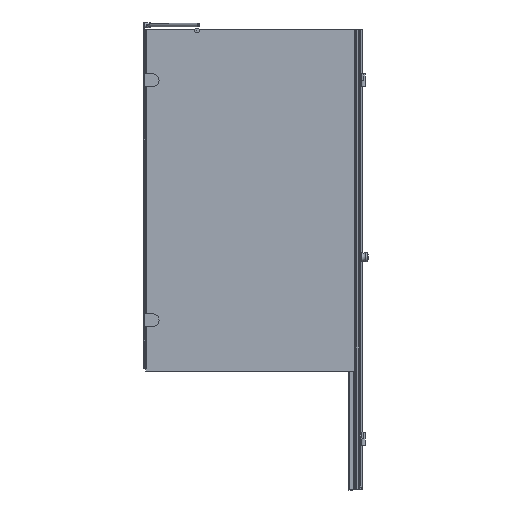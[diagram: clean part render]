
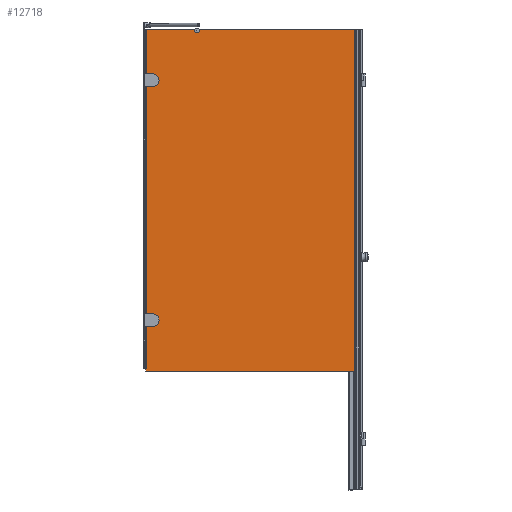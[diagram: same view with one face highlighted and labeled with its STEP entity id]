
A CAD part, front view. The second image highlights one B-rep face of the part: STEP entity #12718.
In plain terms, the highlighted planar face has unit normal (0, -1, 0).
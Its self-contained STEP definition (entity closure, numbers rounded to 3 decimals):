
#192=FACE_BOUND($,#2121,.T.);
#193=FACE_BOUND($,#2122,.T.);
#194=FACE_BOUND($,#2123,.T.);
#293=CIRCLE($,#13013,26.);
#322=CIRCLE($,#13072,26.);
#570=CIRCLE($,#13766,10.);
#2121=EDGE_LOOP($,(#10842,#10843,#10844,#10845));
#2122=EDGE_LOOP($,(#10846,#10847,#10848,#10849));
#2123=EDGE_LOOP($,(#10850,#10851,#10852,#10853,#10854,#10855,#10856,#10857,
#10858,#10859,#10860));
#2502=LINE($,#18091,#3769);
#2507=LINE($,#18105,#3774);
#2510=LINE($,#18110,#3777);
#2552=LINE($,#18318,#3819);
#2557=LINE($,#18332,#3824);
#2560=LINE($,#18337,#3827);
#3272=LINE($,#20645,#4539);
#3388=LINE($,#21014,#4655);
#3390=LINE($,#21021,#4657);
#3397=LINE($,#21046,#4664);
#3398=LINE($,#21049,#4665);
#3401=LINE($,#21055,#4668);
#3406=LINE($,#21064,#4673);
#3414=LINE($,#21092,#4681);
#3420=LINE($,#21107,#4687);
#3421=LINE($,#21110,#4688);
#3769=VECTOR($,#14655,15.);
#3774=VECTOR($,#14668,15.);
#3777=VECTOR($,#14673,52.);
#3819=VECTOR($,#14823,15.);
#3824=VECTOR($,#14836,15.);
#3827=VECTOR($,#14841,52.);
#4539=VECTOR($,#16631,1410.);
#4655=VECTOR($,#16981,646.666);
#4657=VECTOR($,#16987,2.443);
#4664=VECTOR($,#17008,198.774);
#4665=VECTOR($,#17011,1400.);
#4668=VECTOR($,#17016,1400.);
#4673=VECTOR($,#17025,2.257);
#4681=VECTOR($,#17057,1400.);
#4687=VECTOR($,#17079,10.);
#4688=VECTOR($,#17084,868.);
#4987=VERTEX_POINT($,#18089);
#4988=VERTEX_POINT($,#18090);
#4991=VERTEX_POINT($,#18098);
#4993=VERTEX_POINT($,#18104);
#5045=VERTEX_POINT($,#18316);
#5046=VERTEX_POINT($,#18317);
#5049=VERTEX_POINT($,#18325);
#5051=VERTEX_POINT($,#18331);
#5660=VERTEX_POINT($,#20642);
#5661=VERTEX_POINT($,#20644);
#5749=VERTEX_POINT($,#21012);
#5750=VERTEX_POINT($,#21016);
#5752=VERTEX_POINT($,#21019);
#5754=VERTEX_POINT($,#21025);
#5763=VERTEX_POINT($,#21044);
#5764=VERTEX_POINT($,#21048);
#5766=VERTEX_POINT($,#21054);
#5776=VERTEX_POINT($,#21082);
#5777=VERTEX_POINT($,#21105);
#6235=EDGE_CURVE($,#4987,#4988,#2502,.T.);
#6239=EDGE_CURVE($,#4988,#4991,#293,.T.);
#6242=EDGE_CURVE($,#4991,#4993,#2507,.T.);
#6245=EDGE_CURVE($,#4993,#4987,#2510,.T.);
#6316=EDGE_CURVE($,#5045,#5046,#2552,.T.);
#6320=EDGE_CURVE($,#5046,#5049,#322,.T.);
#6323=EDGE_CURVE($,#5049,#5051,#2557,.T.);
#6326=EDGE_CURVE($,#5051,#5045,#2560,.T.);
#7273=EDGE_CURVE($,#5660,#5661,#3272,.T.);
#7433=EDGE_CURVE($,#5660,#5749,#3388,.T.);
#7436=EDGE_CURVE($,#5750,#5752,#3390,.T.);
#7450=EDGE_CURVE($,#5754,#5763,#3397,.T.);
#7451=EDGE_CURVE($,#5764,#5750,#3398,.T.);
#7454=EDGE_CURVE($,#5763,#5766,#3401,.T.);
#7459=EDGE_CURVE($,#5766,#5764,#3406,.T.);
#7475=EDGE_CURVE($,#5752,#5776,#3414,.T.);
#7481=EDGE_CURVE($,#5776,#5777,#3420,.T.);
#7482=EDGE_CURVE($,#5749,#5754,#570,.T.);
#7483=EDGE_CURVE($,#5661,#5777,#3421,.T.);
#10842=ORIENTED_EDGE($,*,*,#6235,.T.);
#10843=ORIENTED_EDGE($,*,*,#6239,.T.);
#10844=ORIENTED_EDGE($,*,*,#6242,.T.);
#10845=ORIENTED_EDGE($,*,*,#6245,.T.);
#10846=ORIENTED_EDGE($,*,*,#6316,.T.);
#10847=ORIENTED_EDGE($,*,*,#6320,.T.);
#10848=ORIENTED_EDGE($,*,*,#6323,.T.);
#10849=ORIENTED_EDGE($,*,*,#6326,.T.);
#10850=ORIENTED_EDGE($,*,*,#7482,.T.);
#10851=ORIENTED_EDGE($,*,*,#7450,.T.);
#10852=ORIENTED_EDGE($,*,*,#7454,.T.);
#10853=ORIENTED_EDGE($,*,*,#7459,.T.);
#10854=ORIENTED_EDGE($,*,*,#7451,.T.);
#10855=ORIENTED_EDGE($,*,*,#7436,.T.);
#10856=ORIENTED_EDGE($,*,*,#7475,.T.);
#10857=ORIENTED_EDGE($,*,*,#7481,.T.);
#10858=ORIENTED_EDGE($,*,*,#7483,.F.);
#10859=ORIENTED_EDGE($,*,*,#7273,.F.);
#10860=ORIENTED_EDGE($,*,*,#7433,.T.);
#11426=PLANE($,#13765);
#12718=ADVANCED_FACE($,(#192,#193,#194),#11426,.T.);
#13013=AXIS2_PLACEMENT_3D($,#18099,#14661,#14662);
#13072=AXIS2_PLACEMENT_3D($,#18326,#14829,#14830);
#13765=AXIS2_PLACEMENT_3D($,#21108,#17080,#17081);
#13766=AXIS2_PLACEMENT_3D($,#21109,#17082,#17083);
#14655=DIRECTION($,(1.,0.,0.));
#14661=DIRECTION('center_axis',(0.,1.,0.));
#14662=DIRECTION('ref_axis',(0.,0.,
1.));
#14668=DIRECTION($,(-1.,0.,0.));
#14673=DIRECTION($,(0.,0.,1.));
#14823=DIRECTION($,(1.,0.,0.));
#14829=DIRECTION('center_axis',(0.,1.,0.));
#14830=DIRECTION('ref_axis',(0.,0.,
1.));
#14836=DIRECTION($,(-1.,0.,0.));
#14841=DIRECTION($,(0.,0.,1.));
#16631=DIRECTION($,(0.,0.,-1.));
#16981=DIRECTION($,(-1.,0.,0.));
#16987=DIRECTION($,(-1.,0.,0.));
#17008=DIRECTION($,(-1.,0.,0.));
#17011=DIRECTION($,(0.,0.,1.));
#17016=DIRECTION($,(0.,0.,-1.));
#17025=DIRECTION($,(-1.,0.,0.));
#17057=DIRECTION($,(0.,0.,-1.));
#17079=DIRECTION($,(0.,0.,-1.));
#17080=DIRECTION('center_axis',(0.,-1.,0.));
#17081=DIRECTION('ref_axis',(-1.,0.,0.));
#17082=DIRECTION('center_axis',(0.,1.,0.));
#17083=DIRECTION('ref_axis',(0.,0.,
-1.));
#17084=DIRECTION($,(-1.,0.,0.));
#18089=CARTESIAN_POINT('',(387.019,-49.044,211.944));
#18090=CARTESIAN_POINT('',(402.019,-49.044,211.944));
#18091=CARTESIAN_POINT($,(821.519,-49.044,211.944));
#18098=CARTESIAN_POINT('',(402.019,-49.044,159.944));
#18099=CARTESIAN_POINT('Origin',(402.019,-49.044,185.944));
#18104=CARTESIAN_POINT('',(387.019,-49.044,159.944));
#18105=CARTESIAN_POINT($,(814.019,-49.044,159.944));
#18110=CARTESIAN_POINT($,(387.019,-49.044,798.944));
#18316=CARTESIAN_POINT('',(387.019,-49.044,1201.944));
#18317=CARTESIAN_POINT('',(402.019,-49.044,1201.944));
#18318=CARTESIAN_POINT($,(821.519,-49.044,1201.944));
#18325=CARTESIAN_POINT('',(402.019,-49.044,1149.944));
#18326=CARTESIAN_POINT('Origin',(402.019,-49.044,1175.944));
#18331=CARTESIAN_POINT('',(387.019,-49.044,1149.944));
#18332=CARTESIAN_POINT($,(814.019,-49.044,1149.944));
#18337=CARTESIAN_POINT($,(387.019,-49.044,1293.944));
#20642=CARTESIAN_POINT('',(1241.019,-49.044,1385.944));
#20644=CARTESIAN_POINT('',(1241.019,-49.044,-24.056));
#20645=CARTESIAN_POINT($,(1241.019,-49.044,1385.944));
#21012=CARTESIAN_POINT('',(594.353,-49.044,1385.944));
#21014=CARTESIAN_POINT($,(1241.019,-49.044,1385.944));
#21016=CARTESIAN_POINT('',(375.462,-49.044,1385.944));
#21019=CARTESIAN_POINT('',(373.019,-49.044,1385.944));
#21021=CARTESIAN_POINT($,(1241.019,-49.044,1385.944));
#21025=CARTESIAN_POINT('',(576.493,-49.044,1385.944));
#21044=CARTESIAN_POINT('',(377.719,-49.044,1385.944));
#21046=CARTESIAN_POINT($,(1241.019,-49.044,1385.944));
#21048=CARTESIAN_POINT('',(375.462,-49.044,-14.056));
#21049=CARTESIAN_POINT($,(375.462,-49.044,685.944));
#21054=CARTESIAN_POINT('',(377.719,-49.044,-14.056));
#21055=CARTESIAN_POINT($,(377.719,-49.044,685.944));
#21064=CARTESIAN_POINT($,(807.622,-49.044,-14.056));
#21082=CARTESIAN_POINT('',(373.019,-49.044,-14.056));
#21092=CARTESIAN_POINT($,(373.019,-49.044,1385.944));
#21105=CARTESIAN_POINT('',(373.019,-49.044,-24.056));
#21107=CARTESIAN_POINT($,(373.019,-49.044,1385.944));
#21108=CARTESIAN_POINT('Origin',(1241.019,-49.044,1385.944));
#21109=CARTESIAN_POINT('Origin',(585.423,-49.044,1381.444));
#21110=CARTESIAN_POINT($,(1241.019,-49.044,-24.056));
